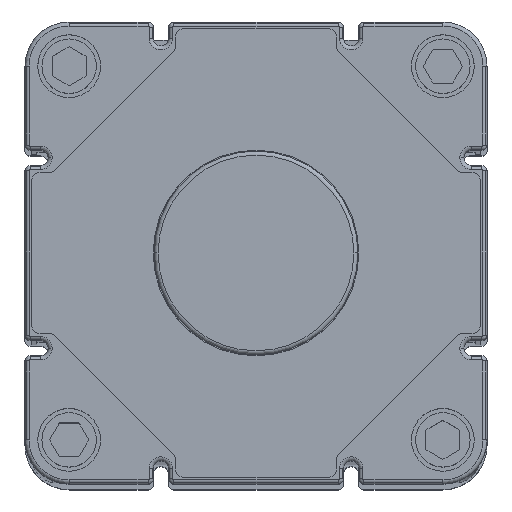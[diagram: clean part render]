
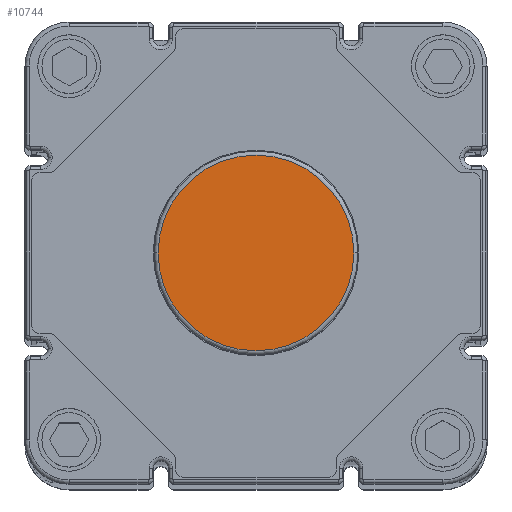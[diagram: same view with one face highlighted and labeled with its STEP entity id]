
A CAD part, top view. The second image highlights one B-rep face of the part: STEP entity #10744.
In plain terms, the highlighted planar face has unit normal (0, 0, 1).
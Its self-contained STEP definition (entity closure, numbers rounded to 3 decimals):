
#4200=CARTESIAN_POINT('',(-51.3,22.5,973.5));
#4201=VERTEX_POINT('',#4200);
#4209=CARTESIAN_POINT('',(6.3,22.5,973.5));
#4210=VERTEX_POINT('',#4209);
#4211=CARTESIAN_POINT('',(-22.5,22.5,973.5));
#4212=DIRECTION('',(0.0,0.0,-1.0));
#4213=DIRECTION('',(-1.0,0.0,0.0));
#4214=AXIS2_PLACEMENT_3D('',#4211,#4212,#4213);
#4215=CIRCLE('',#4214,28.8);
#4216=EDGE_CURVE('',#4201,#4210,#4215,.T.);
#10713=CARTESIAN_POINT('',(-22.5,22.5,973.5));
#10714=DIRECTION('',(0.0,0.0,-1.0));
#10715=DIRECTION('',(-1.0,0.0,0.0));
#10716=AXIS2_PLACEMENT_3D('',#10713,#10714,#10715);
#10717=CIRCLE('',#10716,28.8);
#10718=EDGE_CURVE('',#4210,#4201,#10717,.T.);
#10735=CARTESIAN_POINT('',(21.25,-21.25,973.5));
#10736=DIRECTION('',(0.0,0.0,1.0));
#10737=DIRECTION('',(1.0,0.0,0.0));
#10738=AXIS2_PLACEMENT_3D('',#10735,#10736,#10737);
#10739=PLANE('',#10738);
#10740=ORIENTED_EDGE('',*,*,#10718,.F.);
#10741=ORIENTED_EDGE('',*,*,#4216,.F.);
#10742=EDGE_LOOP('',(#10740,#10741));
#10743=FACE_OUTER_BOUND('',#10742,.T.);
#10744=ADVANCED_FACE('',(#10743),#10739,.T.);
